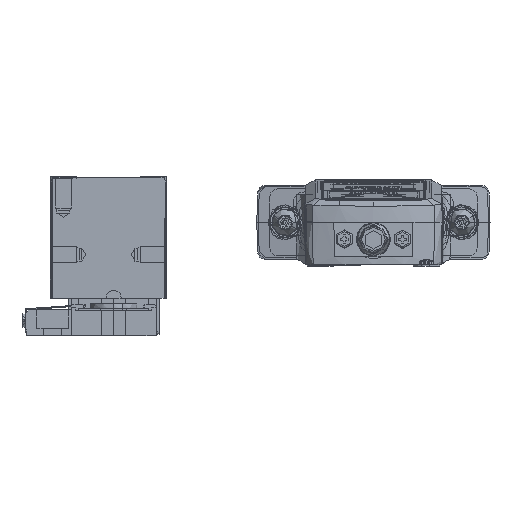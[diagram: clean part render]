
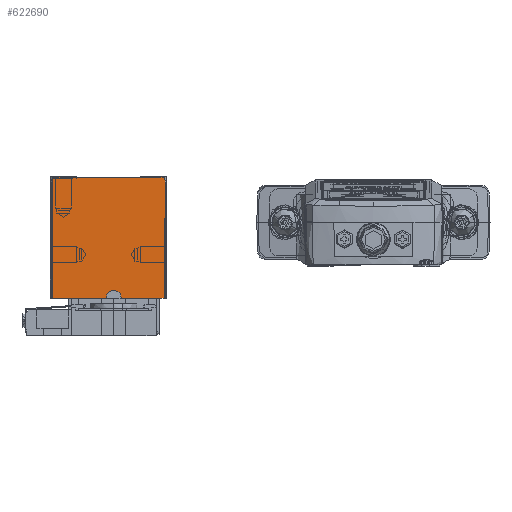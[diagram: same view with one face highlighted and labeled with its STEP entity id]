
A CAD part, left-side view. The second image highlights one B-rep face of the part: STEP entity #622690.
In plain terms, the highlighted planar face has unit normal (-1, 0, 0).
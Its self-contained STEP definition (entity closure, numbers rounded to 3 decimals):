
#595260=CARTESIAN_POINT('',(0.,21.5,0.));
#595270=VERTEX_POINT('',#595260);
#595500=CARTESIAN_POINT('',(0.,17.,0.));
#595510=VERTEX_POINT('',#595500);
#595540=CARTESIAN_POINT('',(0.,0.,0.));
#595550=DIRECTION('',(0.,1.,0.));
#595560=VECTOR('',#595550,1.);
#595570=LINE('',#595540,#595560);
#595580=EDGE_CURVE('',#595510,#595270,#595570,.T.);
#595820=CARTESIAN_POINT('',(0.,0.5,-8.));
#595830=VERTEX_POINT('',#595820);
#600010=CARTESIAN_POINT('',(0.,21.5,-23.));
#600020=VERTEX_POINT('',#600010);
#600050=CARTESIAN_POINT('',(0.,0.,-23.));
#600060=DIRECTION('',(0.,-1.,0.));
#600070=VECTOR('',#600060,1.);
#600080=LINE('',#600050,#600070);
#600090=CARTESIAN_POINT('',(0.,11.4,-23.));
#600100=VERTEX_POINT('',#600090);
#600110=EDGE_CURVE('',#600020,#600100,#600080,.T.);
#600330=CARTESIAN_POINT('',(0.,8.6,-23.));
#600340=VERTEX_POINT('',#600330);
#600370=CARTESIAN_POINT('',(0.,0.,-23.));
#600380=DIRECTION('',(0.,1.,0.));
#600390=VECTOR('',#600380,1.);
#600400=LINE('',#600370,#600390);
#600410=CARTESIAN_POINT('',(0.,0.5,-23.));
#600420=VERTEX_POINT('',#600410);
#600430=EDGE_CURVE('',#600420,#600340,#600400,.T.);
#608800=CARTESIAN_POINT('',(0.,0.5,0.));
#608810=DIRECTION('',(0.,0.,-1.));
#608820=VECTOR('',#608810,1.);
#608830=LINE('',#608800,#608820);
#608840=CARTESIAN_POINT('',(0.,0.5,-7.9));
#608850=VERTEX_POINT('',#608840);
#608860=EDGE_CURVE('',#608850,#595830,#608830,.T.);
#609730=CARTESIAN_POINT('',(0.,0.2,-1.1));
#609740=VERTEX_POINT('',#609730);
#609770=CARTESIAN_POINT('',(0.,1.1,-1.1));
#609780=DIRECTION('',(1.,0.,0.));
#609790=DIRECTION('',(0.,-1.,0.));
#609800=AXIS2_PLACEMENT_3D('',#609770,#609780,#609790);
#609810=CIRCLE('',#609800,0.9);
#609820=CARTESIAN_POINT('',(0.,1.1,-0.2));
#609830=VERTEX_POINT('',#609820);
#609840=EDGE_CURVE('',#609830,#609740,#609810,.T.);
#610620=CARTESIAN_POINT('',(0.,21.5,-11.5));
#610630=DIRECTION('',(0.,0.,-1.));
#610640=VECTOR('',#610630,1.);
#610650=LINE('',#610620,#610640);
#610660=EDGE_CURVE('',#595270,#600020,#610650,.T.);
#611590=CARTESIAN_POINT('',(0.,10.2,-22.8));
#611600=DIRECTION('',(1.,0.,0.));
#611610=DIRECTION('',(0.,-1.,0.));
#611620=AXIS2_PLACEMENT_3D('',#611590,#611600,#611610);
#611630=CIRCLE('',#611620,1.2);
#611640=CARTESIAN_POINT('',(0.,11.4,-22.8));
#611650=VERTEX_POINT('',#611640);
#611660=CARTESIAN_POINT('',(0.,10.2,-21.6));
#611670=VERTEX_POINT('',#611660);
#611680=EDGE_CURVE('',#611650,#611670,#611630,.T.);
#612710=CARTESIAN_POINT('',(0.,0.5,-15.5));
#612720=DIRECTION('',(0.,0.,-1.));
#612730=VECTOR('',#612720,1.);
#612740=LINE('',#612710,#612730);
#612750=EDGE_CURVE('',#595830,#600420,#612740,.T.);
#612870=CARTESIAN_POINT('',(0.,9.8,-22.8));
#612880=DIRECTION('',(1.,0.,0.));
#612890=DIRECTION('',(0.,-1.,0.));
#612900=AXIS2_PLACEMENT_3D('',#612870,#612880,#612890);
#612910=CIRCLE('',#612900,1.2);
#612920=CARTESIAN_POINT('',(0.,9.8,-21.6));
#612930=VERTEX_POINT('',#612920);
#612940=CARTESIAN_POINT('',(0.,8.6,-22.8));
#612950=VERTEX_POINT('',#612940);
#612960=EDGE_CURVE('',#612930,#612950,#612910,.T.);
#615210=CARTESIAN_POINT('',(0.,0.,-21.6));
#615220=DIRECTION('',(0.,1.,0.));
#615230=VECTOR('',#615220,1.);
#615240=LINE('',#615210,#615230);
#615250=EDGE_CURVE('',#612930,#611670,#615240,.T.);
#615520=CARTESIAN_POINT('',(0.,17.,-0.5));
#615530=VERTEX_POINT('',#615520);
#615580=CARTESIAN_POINT('',(0.,17.,0.));
#615590=DIRECTION('',(0.,0.,-1.));
#615600=VECTOR('',#615590,1.);
#615610=LINE('',#615580,#615600);
#615620=EDGE_CURVE('',#595510,#615530,#615610,.T.);
#616290=CARTESIAN_POINT('',(0.,11.4,0.));
#616300=DIRECTION('',(0.,0.,-1.));
#616310=VECTOR('',#616300,1.);
#616320=LINE('',#616290,#616310);
#616330=EDGE_CURVE('',#611650,#600100,#616320,.T.);
#619010=CARTESIAN_POINT('',(0.,8.6,0.));
#619020=DIRECTION('',(0.,0.,1.));
#619030=VECTOR('',#619020,1.);
#619040=LINE('',#619010,#619030);
#619050=EDGE_CURVE('',#600340,#612950,#619040,.T.);
#621680=CARTESIAN_POINT('',(0.,5.646,-7.9));
#621690=DIRECTION('',(0.,1.,0.));
#621700=VECTOR('',#621690,1.);
#621710=LINE('',#621680,#621700);
#621720=CARTESIAN_POINT('',(0.,0.2,-7.9));
#621730=VERTEX_POINT('',#621720);
#621740=EDGE_CURVE('',#621730,#608850,#621710,.T.);
#622200=CARTESIAN_POINT('',(0.,21.9,-6.));
#622210=DIRECTION('',(-1.,-0.,-0.));
#622220=DIRECTION('',(0.,0.,-1.));
#622230=AXIS2_PLACEMENT_3D('',#622200,#622210,#622220);
#622240=PLANE('',#622230);
#622250=CARTESIAN_POINT('',(0.,5.646,
-0.2));
#622260=DIRECTION('',(0.,-1.,0.));
#622270=VECTOR('',#622260,1.);
#622280=LINE('',#622250,#622270);
#622290=CARTESIAN_POINT('',(0.,16.95,-0.2));
#622300=VERTEX_POINT('',#622290);
#622310=EDGE_CURVE('',#622300,#609830,#622280,.T.);
#622320=ORIENTED_EDGE('',*,*,#622310,.F.);
#622330=ORIENTED_EDGE('',*,*,#609840,.F.);
#622340=CARTESIAN_POINT('',(0.,0.2,
-0.2));
#622350=DIRECTION('',(0.,0.,-1.));
#622360=VECTOR('',#622350,1.);
#622370=LINE('',#622340,#622360);
#622380=EDGE_CURVE('',#609740,#621730,#622370,.T.);
#622390=ORIENTED_EDGE('',*,*,#622380,.F.);
#622400=ORIENTED_EDGE('',*,*,#621740,.F.);
#622410=ORIENTED_EDGE('',*,*,#608860,.F.);
#622420=ORIENTED_EDGE('',*,*,#612750,.F.);
#622430=ORIENTED_EDGE('',*,*,#600430,.F.);
#622440=ORIENTED_EDGE('',*,*,#619050,.F.);
#622450=ORIENTED_EDGE('',*,*,#612960,.T.);
#622460=ORIENTED_EDGE('',*,*,#615250,.F.);
#622470=ORIENTED_EDGE('',*,*,#611680,.T.);
#622480=ORIENTED_EDGE('',*,*,#616330,.F.);
#622490=ORIENTED_EDGE('',*,*,#600110,.T.);
#622500=ORIENTED_EDGE('',*,*,#610660,.T.);
#622510=ORIENTED_EDGE('',*,*,#595580,.T.);
#622520=ORIENTED_EDGE('',*,*,#615620,.F.);
#622530=CARTESIAN_POINT('',(0.,0.,-0.5));
#622540=DIRECTION('',(0.,1.,0.));
#622550=VECTOR('',#622540,1.);
#622560=LINE('',#622530,#622550);
#622570=CARTESIAN_POINT('',(0.,16.95,-0.5));
#622580=VERTEX_POINT('',#622570);
#622590=EDGE_CURVE('',#622580,#615530,#622560,.T.);
#622600=ORIENTED_EDGE('',*,*,#622590,.T.);
#622610=CARTESIAN_POINT('',(0.,16.95,-0.8));
#622620=DIRECTION('',(0.,0.,1.));
#622630=VECTOR('',#622620,1.);
#622640=LINE('',#622610,#622630);
#622650=EDGE_CURVE('',#622580,#622300,#622640,.T.);
#622660=ORIENTED_EDGE('',*,*,#622650,.F.);
#622670=EDGE_LOOP('',(#622660,#622600,#622520,#622510,#622500,#622490,
#622480,#622470,#622460,#622450,#622440,#622430,#622420,#622410,#622400,
#622390,#622330,#622320));
#622680=FACE_OUTER_BOUND('',#622670,.T.);
#622690=ADVANCED_FACE('',(#622680),#622240,.T.);
